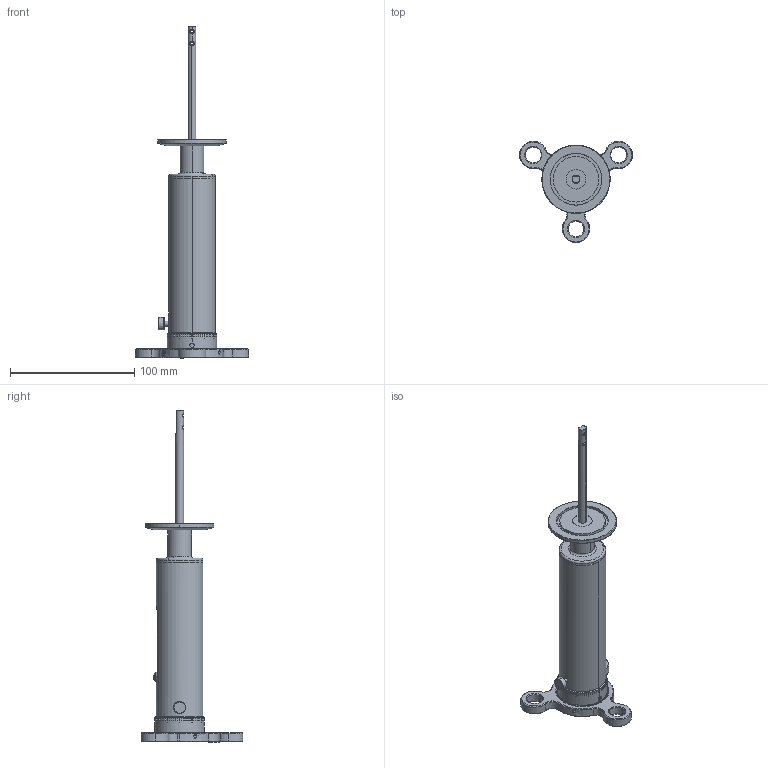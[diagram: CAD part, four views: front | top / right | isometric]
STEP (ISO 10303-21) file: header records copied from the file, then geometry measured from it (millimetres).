
FILE_DESCRIPTION (( 'STEP AP203' ), '1' );
FILE_NAME ('102280-113086.stp', '2019-04-10T19:23:59', ( '' ), ( '' ), 'SwSTEP 2.0', 'SolidWorks 2012', '' );
FILE_SCHEMA (( 'CONFIG_CONTROL_DESIGN' ));
Products named in the file (1): 102280-113086
Bounding box: 90.97 x 81.76 x 267.13 mm (x, y, z)
Volume: 196811.1 mm3; surface area: 35020.5 mm2
Topology: 1 solids, 1 shells, 1506 faces, 4304 edges, 2844 vertices
Faces by surface type: plane 920, cylinder 352, bspline 152, cone 82
Entity records: 73371 total; most frequent: CARTESIAN_POINT 35004, ORIENTED_EDGE 8608, DIRECTION 7330, EDGE_CURVE 4304, VERTEX_POINT 2844, AXIS2_PLACEMENT_3D 2563, LINE 2204, VECTOR 2204
